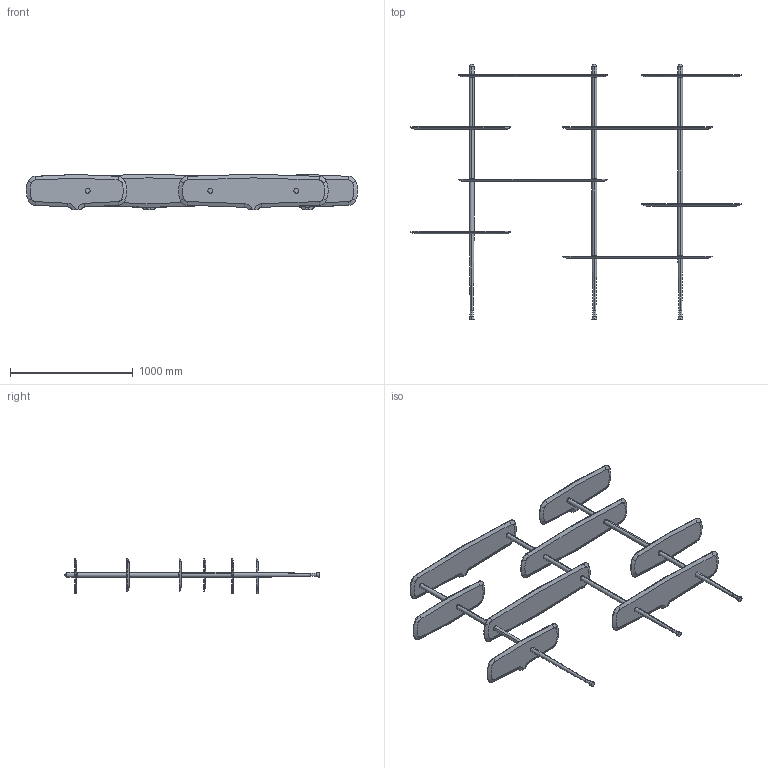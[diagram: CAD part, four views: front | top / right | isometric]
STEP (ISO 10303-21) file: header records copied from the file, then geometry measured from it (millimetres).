
FILE_DESCRIPTION (( 'STEP AP214' ), '1' );
FILE_NAME ('AXIS 3.STEP', '2025-07-23T11:19:25', ( '' ), ( '' ), 'SwSTEP 2.0', 'SolidWorks 2016', '' );
FILE_SCHEMA (( 'AUTOMOTIVE_DESIGN' ));
Length unit declared in the file: millimetre
Products named in the file (58): ARANDELA LATÓN; BALDA_S_FIX_CENTRAL_RIGHT_DM; BALDA_M_DM (100); TERMINAL; BASE_70; TRAMO_40; BALDA_M_FIX_DM (100); BASE_50; BALDA_S_AIR_MOVIL_DM; BALDA_S_FIX_CENTRAL_LEFT_DM; TRAMO_60; BALDA_M_FIX_DM (70); BALDA_M_DM (70); AXIS 3
Assembly tree (44 placements, depth 2):
  ARANDELA LATÓN
  BALDA_S_FIX_CENTRAL_RIGHT_DM
  BALDA_M_DM (100)
  ARANDELA LATÓN
  TERMINAL
Bounding box: 2698.86 x 2080 x 290.26 mm (x, y, z)
Volume: 39684853 mm3; surface area: 5045883 mm2
Topology: 44 solids, 44 shells, 496 faces, 1076 edges, 668 vertices
Faces by surface type: cylinder 236, plane 116, cone 86, bspline 40, torus 12, sphere 6
Entity records: 12633 total; most frequent: CARTESIAN_POINT 3595, DIRECTION 1270, ORIENTED_EDGE 1140, EDGE_CURVE 570, AXIS2_PLACEMENT_3D 536, VERTEX_POINT 353, EDGE_LOOP 281, CIRCLE 274
